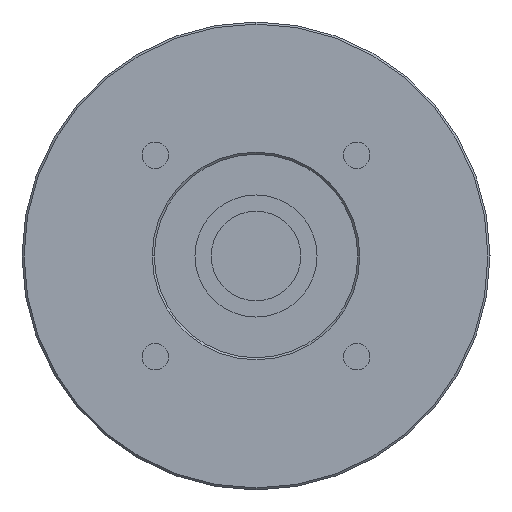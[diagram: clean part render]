
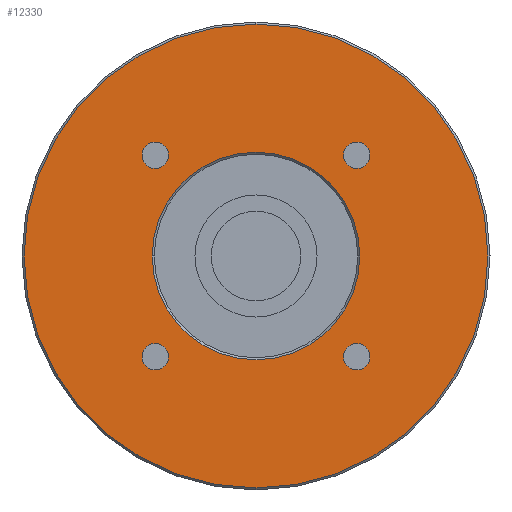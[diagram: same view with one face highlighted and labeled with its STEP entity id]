
A CAD part, left-side view. The second image highlights one B-rep face of the part: STEP entity #12330.
In plain terms, the highlighted planar face has unit normal (-1, 0, 0) as drawn and (0, 0, -1) by its records, which use the part's own axes.
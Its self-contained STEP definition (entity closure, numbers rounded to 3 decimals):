
#9140=CARTESIAN_POINT('',(-21.499,-24.749,-65.6));
#9150=VERTEX_POINT('',#9140);
#9180=CARTESIAN_POINT('',(-24.749,-24.749,-65.6));
#9190=DIRECTION('',(0.,0.,-1.));
#9200=DIRECTION('',(1.,0.,0.));
#9210=AXIS2_PLACEMENT_3D('',#9180,#9190,#9200);
#9220=CIRCLE('',#9210,3.25);
#9230=CARTESIAN_POINT('',(-27.999,-24.749,-65.6));
#9240=VERTEX_POINT('',#9230);
#9250=EDGE_CURVE('',#9240,#9150,#9220,.T.);
#11260=CARTESIAN_POINT('',(0.,57.,-65.6));
#11270=VERTEX_POINT('',#11260);
#11300=CARTESIAN_POINT('',(0.,0.,
-65.6));
#11310=DIRECTION('',(0.,0.,-1.));
#11320=DIRECTION('',(1.,0.,0.));
#11330=AXIS2_PLACEMENT_3D('',#11300,#11310,#11320);
#11340=CIRCLE('',#11330,57.);
#11350=CARTESIAN_POINT('',(57.,0.,-65.6));
#11360=VERTEX_POINT('',#11350);
#11370=EDGE_CURVE('',#11270,#11360,#11340,.T.);
#11390=CARTESIAN_POINT('',(0.,-57.,-65.6));
#11400=VERTEX_POINT('',#11390);
#11410=EDGE_CURVE('',#11360,#11400,#11340,.T.);
#11570=CARTESIAN_POINT('',(0.,0.,
-65.6));
#11580=DIRECTION('',(0.,0.,-1.));
#11590=DIRECTION('',(1.,0.,0.));
#11600=AXIS2_PLACEMENT_3D('',#11570,#11580,#11590);
#11610=PLANE('',#11600);
#11620=EDGE_CURVE('',#11400,#11270,#11340,.T.);
#11630=ORIENTED_EDGE('',*,*,#11620,.T.);
#11640=ORIENTED_EDGE('',*,*,#11410,.T.);
#11650=ORIENTED_EDGE('',*,*,#11370,.T.);
#11660=EDGE_LOOP('',(#11650,#11640,#11630));
#11670=FACE_OUTER_BOUND('',#11660,.T.);
#11680=CARTESIAN_POINT('',(0.,0.,
-65.6));
#11690=DIRECTION('',(0.,0.,-1.));
#11700=DIRECTION('',(1.,0.,0.));
#11710=AXIS2_PLACEMENT_3D('',#11680,#11690,#11700);
#11720=CIRCLE('',#11710,25.5);
#11730=CARTESIAN_POINT('',(25.5,0.,-65.6));
#11740=VERTEX_POINT('',#11730);
#11750=CARTESIAN_POINT('',(-25.5,0.,-65.6));
#11760=VERTEX_POINT('',#11750);
#11770=EDGE_CURVE('',#11740,#11760,#11720,.T.);
#11780=ORIENTED_EDGE('',*,*,#11770,.F.);
#11790=EDGE_CURVE('',#11760,#11740,#11720,.T.);
#11800=ORIENTED_EDGE('',*,*,#11790,.F.);
#11810=EDGE_LOOP('',(#11800,#11780));
#11820=FACE_BOUND('',#11810,.T.);
#11830=CARTESIAN_POINT('',(24.749,-24.749,-65.6));
#11840=DIRECTION('',(0.,0.,-1.));
#11850=DIRECTION('',(1.,0.,0.));
#11860=AXIS2_PLACEMENT_3D('',#11830,#11840,#11850);
#11870=CIRCLE('',#11860,3.25);
#11880=CARTESIAN_POINT('',(27.999,-24.749,-65.6));
#11890=VERTEX_POINT('',#11880);
#11900=CARTESIAN_POINT('',(21.499,-24.749,-65.6));
#11910=VERTEX_POINT('',#11900);
#11920=EDGE_CURVE('',#11890,#11910,#11870,.T.);
#11930=ORIENTED_EDGE('',*,*,#11920,.F.);
#11940=EDGE_CURVE('',#11910,#11890,#11870,.T.);
#11950=ORIENTED_EDGE('',*,*,#11940,.F.);
#11960=EDGE_LOOP('',(#11950,#11930));
#11970=FACE_BOUND('',#11960,.T.);
#11980=CARTESIAN_POINT('',(24.749,24.749,-65.6));
#11990=DIRECTION('',(0.,0.,-1.));
#12000=DIRECTION('',(1.,0.,0.));
#12010=AXIS2_PLACEMENT_3D('',#11980,#11990,#12000);
#12020=CIRCLE('',#12010,3.25);
#12030=CARTESIAN_POINT('',(27.999,24.749,-65.6));
#12040=VERTEX_POINT('',#12030);
#12050=CARTESIAN_POINT('',(21.499,24.749,-65.6));
#12060=VERTEX_POINT('',#12050);
#12070=EDGE_CURVE('',#12040,#12060,#12020,.T.);
#12080=ORIENTED_EDGE('',*,*,#12070,.F.);
#12090=EDGE_CURVE('',#12060,#12040,#12020,.T.);
#12100=ORIENTED_EDGE('',*,*,#12090,.F.);
#12110=EDGE_LOOP('',(#12100,#12080));
#12120=FACE_BOUND('',#12110,.T.);
#12130=CARTESIAN_POINT('',(-24.749,24.749,-65.6));
#12140=DIRECTION('',(0.,0.,-1.));
#12150=DIRECTION('',(1.,0.,0.));
#12160=AXIS2_PLACEMENT_3D('',#12130,#12140,#12150);
#12170=CIRCLE('',#12160,3.25);
#12180=CARTESIAN_POINT('',(-21.499,24.749,-65.6));
#12190=VERTEX_POINT('',#12180);
#12200=CARTESIAN_POINT('',(-27.999,24.749,-65.6));
#12210=VERTEX_POINT('',#12200);
#12220=EDGE_CURVE('',#12190,#12210,#12170,.T.);
#12230=ORIENTED_EDGE('',*,*,#12220,.F.);
#12240=EDGE_CURVE('',#12210,#12190,#12170,.T.);
#12250=ORIENTED_EDGE('',*,*,#12240,.F.);
#12260=EDGE_LOOP('',(#12250,#12230));
#12270=FACE_BOUND('',#12260,.T.);
#12280=EDGE_CURVE('',#9150,#9240,#9220,.T.);
#12290=ORIENTED_EDGE('',*,*,#12280,.F.);
#12300=ORIENTED_EDGE('',*,*,#9250,.F.);
#12310=EDGE_LOOP('',(#12300,#12290));
#12320=FACE_BOUND('',#12310,.T.);
#12330=ADVANCED_FACE('',(#11670,#11820,#11970,#12120,#12270,#12320),
#11610,.T.);
